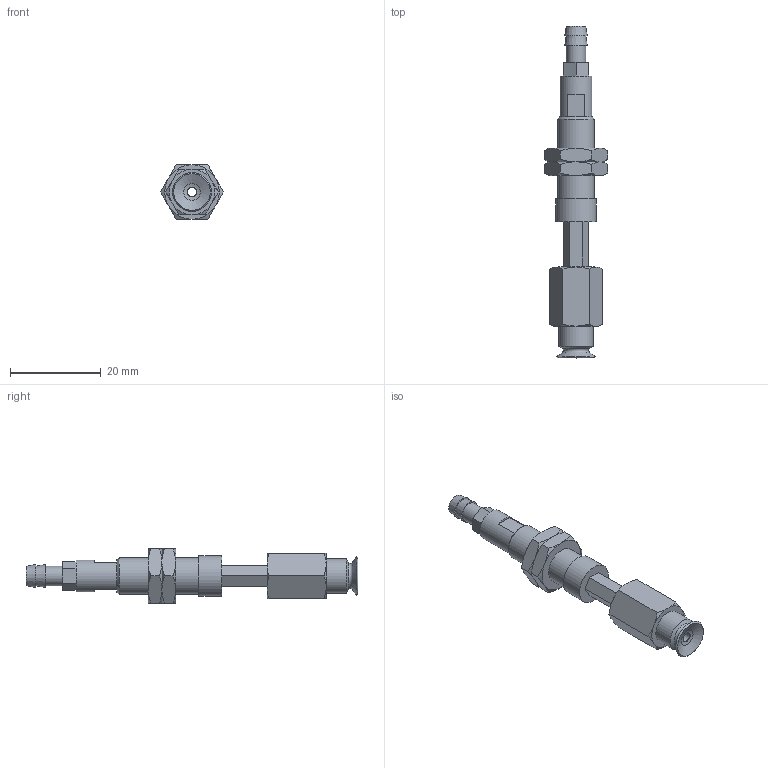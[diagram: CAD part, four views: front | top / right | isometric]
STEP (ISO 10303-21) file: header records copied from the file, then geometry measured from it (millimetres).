
FILE_DESCRIPTION(('STEP AP203'),'1');
FILE_NAME('-T.stp','2025-08-27T03:05:07',(' '),(' '),'Spatial InterOp 3D',' ',' ');
FILE_SCHEMA(('CONFIG_CONTROL_DESIGN'));
Length unit declared in the file: millimetre
Products named in the file (7): BNABPFTH-8A-10-※-T; ADAPTER; NAPATH-10A-10--M; Nut-8A-10-h; NAPFTH-8A-10-FBODY; BPFG-8A-※; T
Assembly tree (7 placements, depth 2):
  BNABPFTH-8A-10-※-T
    ADAPTER
    NAPATH-10A-10--M
    Nut-8A-10-h  x2
    NAPFTH-8A-10-FBODY
    BPFG-8A-※
    T
Bounding box: 13.86 x 73 x 12 mm (x, y, z)
Volume: 3563.5 mm3; surface area: 4429.2 mm2
Topology: 7 solids, 7 shells, 141 faces, 301 edges, 184 vertices
Faces by surface type: plane 64, cone 49, cylinder 17, torus 10, bspline 1
Full cylindrical faces by diameter (mm): 2 x3, 3 x1, 4 x2, 4.134 x1, 4.3 x1, 5 x1, 6 x2, 7 x1, 7.188 x2, 7.5 x1, 8 x1, 9 x1
Entity records: 3485 total; most frequent: CARTESIAN_POINT 795, DIRECTION 490, ORIENTED_EDGE 412, AXIS2_PLACEMENT_3D 207, EDGE_CURVE 206, EDGE_LOOP 178, VERTEX_POINT 148, FACE_OUTER_BOUND 145
